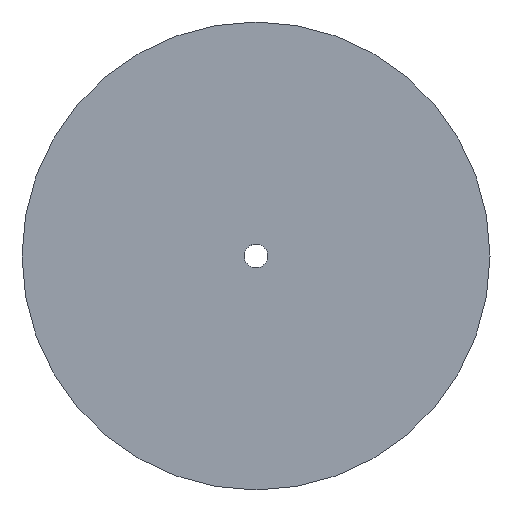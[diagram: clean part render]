
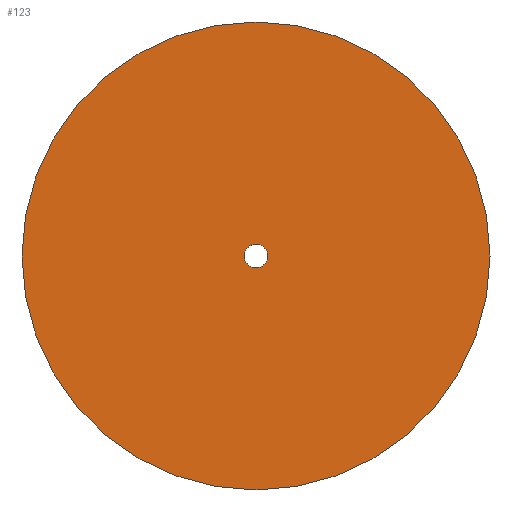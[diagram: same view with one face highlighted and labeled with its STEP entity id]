
A CAD part, top view. The second image highlights one B-rep face of the part: STEP entity #123.
In plain terms, the highlighted planar face has unit normal (0, 0, 1).
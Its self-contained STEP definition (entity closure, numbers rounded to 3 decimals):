
#62=CARTESIAN_POINT('Vertex',(-2.852,1.558,0.)) ;
#76=CARTESIAN_POINT('Vertex',(2.852,-1.558,0.)) ;
#79=CARTESIAN_POINT('Axis2P3D Location',(0.,0.,0.)) ;
#91=CARTESIAN_POINT('Axis2P3D Location',(0.,0.,0.)) ;
#96=CARTESIAN_POINT('Axis2P3D Location',(0.,0.,0.)) ;
#100=CARTESIAN_POINT('Vertex',(64.,0.,0.)) ;
#102=CARTESIAN_POINT('Vertex',(-64.,0.,0.)) ;
#105=CARTESIAN_POINT('Axis2P3D Location',(0.,0.,0.)) ;
#114=CARTESIAN_POINT('Axis2P3D Location',(0.,0.,0.)) ;
#80=DIRECTION('Axis2P3D Direction',(0.,-0.,-1.)) ;
#92=DIRECTION('Axis2P3D Direction',(0.,0.,1.)) ;
#93=DIRECTION('Axis2P3D XDirection',(1.,0.,0.)) ;
#97=DIRECTION('Axis2P3D Direction',(0.,0.,1.)) ;
#106=DIRECTION('Axis2P3D Direction',(0.,0.,1.)) ;
#115=DIRECTION('Axis2P3D Direction',(0.,0.,1.)) ;
#81=AXIS2_PLACEMENT_3D('Circle Axis2P3D',#79,#80,$) ;
#94=AXIS2_PLACEMENT_3D('Plane Axis2P3D',#91,#92,#93) ;
#98=AXIS2_PLACEMENT_3D('Circle Axis2P3D',#96,#97,$) ;
#107=AXIS2_PLACEMENT_3D('Circle Axis2P3D',#105,#106,$) ;
#116=AXIS2_PLACEMENT_3D('Circle Axis2P3D',#114,#115,$) ;
#111=ORIENTED_EDGE('',*,*,#104,.F.) ;
#112=ORIENTED_EDGE('',*,*,#109,.F.) ;
#120=ORIENTED_EDGE('',*,*,#118,.F.) ;
#121=ORIENTED_EDGE('',*,*,#83,.F.) ;
#122=FACE_BOUND('',#119,.T.) ;
#123=ADVANCED_FACE('PartBody',(#113,#122),#95,.T.) ;
#82=CIRCLE('generated circle',#81,3.25) ;
#99=CIRCLE('generated circle',#98,64.) ;
#108=CIRCLE('generated circle',#107,64.) ;
#117=CIRCLE('generated circle',#116,3.25) ;
#83=EDGE_CURVE('',#77,#63,#82,.F.) ;
#104=EDGE_CURVE('',#101,#103,#99,.F.) ;
#109=EDGE_CURVE('',#103,#101,#108,.F.) ;
#118=EDGE_CURVE('',#63,#77,#117,.T.) ;
#110=EDGE_LOOP('',(#111,#112)) ;
#119=EDGE_LOOP('',(#120,#121)) ;
#113=FACE_OUTER_BOUND('',#110,.T.) ;
#95=PLANE('',#94) ;
#63=VERTEX_POINT('',#62) ;
#77=VERTEX_POINT('',#76) ;
#101=VERTEX_POINT('',#100) ;
#103=VERTEX_POINT('',#102) ;
